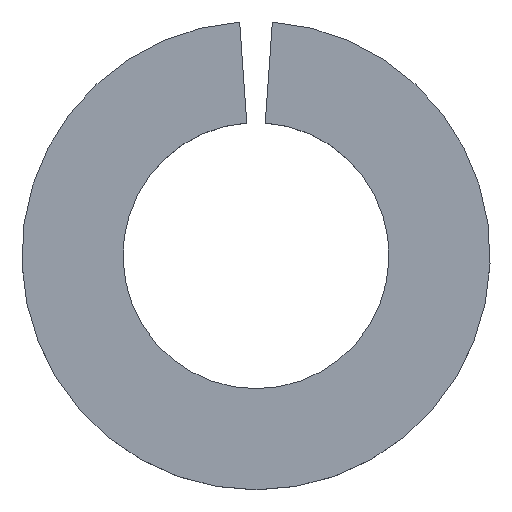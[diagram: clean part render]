
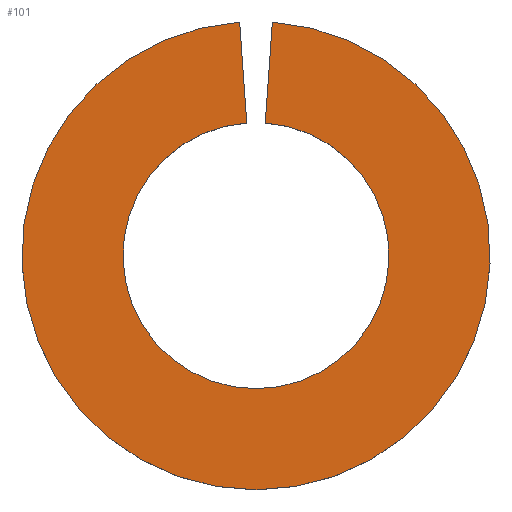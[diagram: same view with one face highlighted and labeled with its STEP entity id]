
A CAD part, top view. The second image highlights one B-rep face of the part: STEP entity #101.
In plain terms, the highlighted planar face has unit normal (0, 0, 1).
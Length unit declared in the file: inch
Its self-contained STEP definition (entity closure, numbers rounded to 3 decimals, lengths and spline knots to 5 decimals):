
#16=CIRCLE('',#120,0.34375);
#18=CIRCLE('',#124,0.19531);
#25=FACE_OUTER_BOUND('',#31,.T.);
#31=EDGE_LOOP('',(#85,#86,#87,#88));
#35=LINE('',#165,#43);
#39=LINE('',#177,#47);
#43=VECTOR('',#133,0.3937);
#47=VECTOR('',#145,0.3937);
#51=VERTEX_POINT('',#162);
#52=VERTEX_POINT('',#164);
#54=VERTEX_POINT('',#170);
#56=VERTEX_POINT('',#176);
#59=EDGE_CURVE('',#52,#51,#35,.T.);
#62=EDGE_CURVE('',#54,#52,#16,.T.);
#65=EDGE_CURVE('',#56,#54,#39,.T.);
#68=EDGE_CURVE('',#51,#56,#18,.T.);
#85=ORIENTED_EDGE('',*,*,#68,.T.);
#86=ORIENTED_EDGE('',*,*,#65,.T.);
#87=ORIENTED_EDGE('',*,*,#62,.T.);
#88=ORIENTED_EDGE('',*,*,#59,.T.);
#95=PLANE('',#125);
#101=ADVANCED_FACE('',(#25),#95,.T.);
#120=AXIS2_PLACEMENT_3D('',#171,#139,#140);
#124=AXIS2_PLACEMENT_3D('',#181,#151,#152);
#125=AXIS2_PLACEMENT_3D('',#182,#153,#154);
#133=DIRECTION('',(-0.07,-0.998,0.));
#139=DIRECTION('center_axis',(0.,0.,1.));
#140=DIRECTION('ref_axis',(1.,0.,0.));
#145=DIRECTION('',(-0.07,0.998,0.));
#151=DIRECTION('center_axis',(0.,0.,-1.));
#152=DIRECTION('ref_axis',(1.,0.,0.));
#153=DIRECTION('center_axis',(0.,0.,1.));
#154=DIRECTION('ref_axis',(1.,0.,0.));
#162=CARTESIAN_POINT('',(0.01362,0.19484,0.09375));
#164=CARTESIAN_POINT('',(0.02398,0.34291,0.09375));
#165=CARTESIAN_POINT('',(0.01362,0.19484,0.09375));
#170=CARTESIAN_POINT('',(-0.02398,0.34291,0.09375));
#171=CARTESIAN_POINT('Origin',(0.,0.,0.09375));
#176=CARTESIAN_POINT('',(-0.01362,0.19484,0.09375));
#177=CARTESIAN_POINT('',(-0.01362,0.19484,0.09375));
#181=CARTESIAN_POINT('Origin',(0.,0.,0.09375));
#182=CARTESIAN_POINT('Origin',(0.,-0.00042,0.09375));
